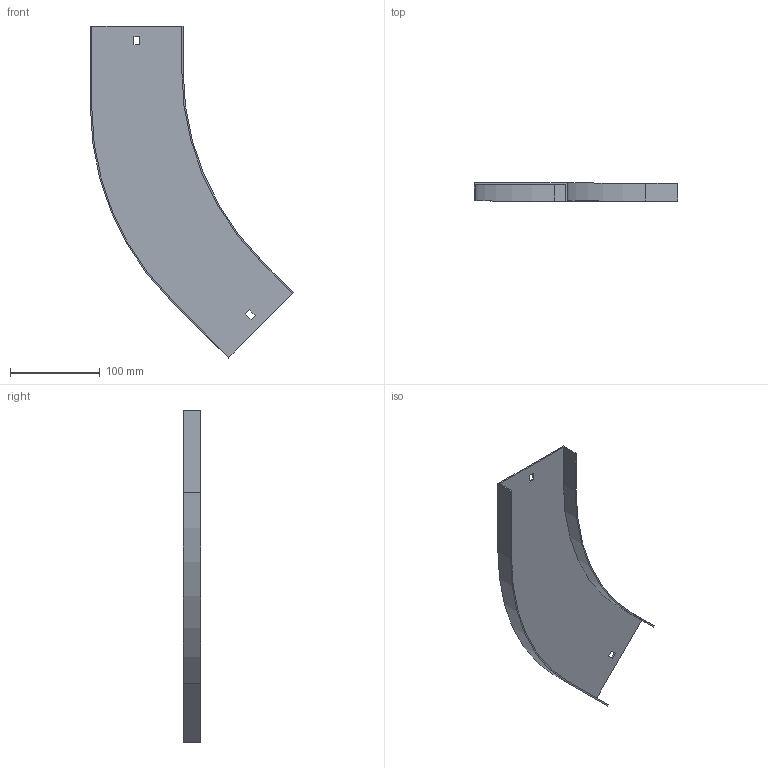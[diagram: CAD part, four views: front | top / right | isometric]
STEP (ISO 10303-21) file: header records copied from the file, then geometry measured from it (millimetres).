
FILE_DESCRIPTION (( 'STEP AP214' ), '1' );
FILE_NAME ('B2_11N3R100.step', '2025-02-21T10:50:56', ( '' ), ( '' ), 'SwSTEP 2.0', 'SolidWorks 2023', '' );
FILE_SCHEMA (( 'AUTOMOTIVE_DESIGN' ));
Length unit declared in the file: millimetre
Products named in the file (1): B2_11N3R100
Bounding box: 225.78 x 20 x 369.26 mm (x, y, z)
Volume: 80939.4 mm3; surface area: 109563.3 mm2
Topology: 1 solids, 1 shells, 26 faces, 72 edges, 48 vertices
Faces by surface type: plane 22, cylinder 4
Entity records: 855 total; most frequent: CARTESIAN_POINT 147, ORIENTED_EDGE 144, DIRECTION 134, EDGE_CURVE 72, LINE 64, VECTOR 64, VERTEX_POINT 48, AXIS2_PLACEMENT_3D 35
